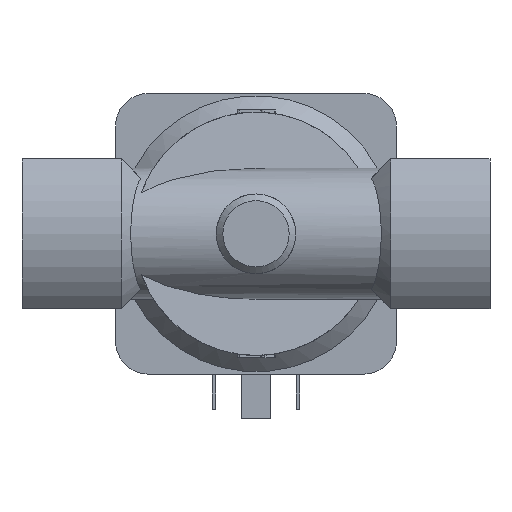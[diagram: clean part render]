
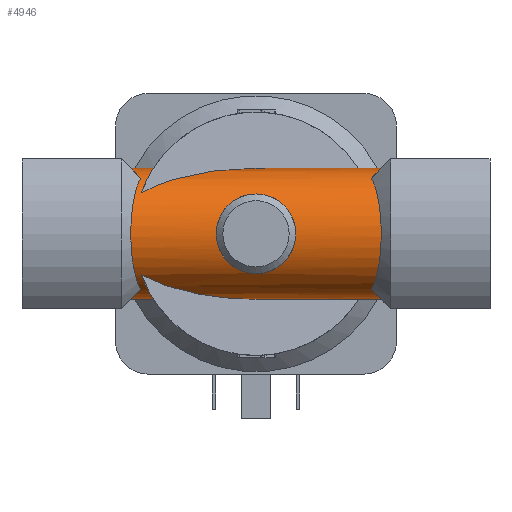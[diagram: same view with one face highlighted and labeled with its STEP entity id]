
A CAD part, front view. The second image highlights one B-rep face of the part: STEP entity #4946.
In plain terms, the highlighted cylindrical face has radius 14 mm (diameter 28 mm), a partial arc.
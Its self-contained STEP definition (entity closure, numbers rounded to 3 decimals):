
#464=LINE('',#8011,#898);
#465=LINE('',#8023,#899);
#466=LINE('',#8039,#900);
#467=LINE('',#8050,#901);
#898=VECTOR('',#6488,1000.);
#899=VECTOR('',#6491,1000.);
#900=VECTOR('',#6496,1000.);
#901=VECTOR('',#6499,1000.);
#1332=B_SPLINE_CURVE_WITH_KNOTS('',3,(#7999,#8000,#8001,#8002,#8003,#8004,
#8005,#8006,#8007),.UNSPECIFIED.,.F.,.F.,(4,1,1,1,1,1,4),(0.,
0.004,0.008,0.015,0.022,
0.026,0.029),.UNSPECIFIED.);
#1333=B_SPLINE_CURVE_WITH_KNOTS('',3,(#8013,#8014,#8015,#8016,#8017,#8018,
#8019),.UNSPECIFIED.,.F.,.F.,(4,1,1,1,4),(0.,0.003,
0.006,0.01,0.013),
 .UNSPECIFIED.);
#1334=B_SPLINE_CURVE_WITH_KNOTS('',3,(#8027,#8028,#8029,#8030,#8031,#8032,
#8033,#8034,#8035),.UNSPECIFIED.,.F.,.F.,(4,1,1,1,1,1,4),(0.,
0.004,0.008,0.015,0.022,
0.026,0.029),.UNSPECIFIED.);
#1335=B_SPLINE_CURVE_WITH_KNOTS('',3,(#8043,#8044,#8045,#8046,#8047,#8048),
 .UNSPECIFIED.,.F.,.F.,(4,1,1,4),(0.001,0.008,
0.011,0.014),.UNSPECIFIED.);
#1336=B_SPLINE_CURVE_WITH_KNOTS('',3,(#8051,#8052,#8053,#8054,#8055,#8056,
#8057,#8058,#8059,#8060,#8061,#8062,#8063,#8064,#8065,#8066,#8067,#8068,
#8069,#8070),.UNSPECIFIED.,.T.,.F.,(1,1,1,1,1,1,1,1,1,1,1,1,1,1,1,1,1,1,
1,1,1,1,1,1),(-0.007,-0.003,-0.002,
0.,0.003,0.007,0.01,0.014,
0.017,0.02,0.024,0.027,
0.031,0.034,0.037,0.041,
0.044,0.048,0.051,0.053,
0.054,0.058,0.061,0.065),
 .UNSPECIFIED.);
#1393=ORIENTED_EDGE('',*,*,#2833,.F.);
#1394=ORIENTED_EDGE('',*,*,#2834,.F.);
#1395=ORIENTED_EDGE('',*,*,#2835,.F.);
#1396=ORIENTED_EDGE('',*,*,#2836,.F.);
#1397=ORIENTED_EDGE('',*,*,#2837,.T.);
#1398=ORIENTED_EDGE('',*,*,#2838,.F.);
#1399=ORIENTED_EDGE('',*,*,#2839,.F.);
#1400=ORIENTED_EDGE('',*,*,#2840,.T.);
#1401=ORIENTED_EDGE('',*,*,#2841,.T.);
#1402=ORIENTED_EDGE('',*,*,#2842,.T.);
#1403=ORIENTED_EDGE('',*,*,#2843,.F.);
#1404=ORIENTED_EDGE('',*,*,#2844,.F.);
#1405=ORIENTED_EDGE('',*,*,#2845,.T.);
#1406=ORIENTED_EDGE('',*,*,#2846,.F.);
#1407=ORIENTED_EDGE('',*,*,#2847,.F.);
#2833=EDGE_CURVE('',#3553,#3554,#4049,.F.);
#2834=EDGE_CURVE('',#3555,#3553,#1332,.T.);
#2835=EDGE_CURVE('',#3556,#3555,#4050,.F.);
#2836=EDGE_CURVE('',#3557,#3556,#464,.T.);
#2837=EDGE_CURVE('',#3557,#3558,#1333,.T.);
#2838=EDGE_CURVE('',#3559,#3558,#4051,.F.);
#2839=EDGE_CURVE('',#3560,#3559,#465,.T.);
#2840=EDGE_CURVE('',#3560,#3561,#4052,.T.);
#2841=EDGE_CURVE('',#3561,#3562,#1334,.T.);
#2842=EDGE_CURVE('',#3562,#3563,#4053,.T.);
#2843=EDGE_CURVE('',#3564,#3563,#466,.T.);
#2844=EDGE_CURVE('',#3565,#3564,#4054,.F.);
#2845=EDGE_CURVE('',#3565,#3566,#1335,.T.);
#2846=EDGE_CURVE('',#3554,#3566,#467,.T.);
#2847=EDGE_CURVE('',#3567,#3567,#1336,.T.);
#3553=VERTEX_POINT('',#7997);
#3554=VERTEX_POINT('',#7998);
#3555=VERTEX_POINT('',#8008);
#3556=VERTEX_POINT('',#8010);
#3557=VERTEX_POINT('',#8012);
#3558=VERTEX_POINT('',#8020);
#3559=VERTEX_POINT('',#8022);
#3560=VERTEX_POINT('',#8024);
#3561=VERTEX_POINT('',#8026);
#3562=VERTEX_POINT('',#8036);
#3563=VERTEX_POINT('',#8038);
#3564=VERTEX_POINT('',#8040);
#3565=VERTEX_POINT('',#8042);
#3566=VERTEX_POINT('',#8049);
#3567=VERTEX_POINT('',#8071);
#4049=ELLIPSE('',#5942,19.799,14.);
#4050=ELLIPSE('',#5943,19.799,14.);
#4051=ELLIPSE('',#5944,34.42,14.);
#4052=ELLIPSE('',#5945,19.799,14.);
#4053=ELLIPSE('',#5946,19.799,14.);
#4054=ELLIPSE('',#5947,34.42,14.);
#4073=EDGE_LOOP('',(#1393,#1394,#1395,#1396,#1397,#1398,#1399,#1400,#1401,
#1402,#1403,#1404,#1405,#1406));
#4074=EDGE_LOOP('',(#1407));
#4467=FACE_BOUND('',#4073,.T.);
#4468=FACE_BOUND('',#4074,.T.);
#4861=CYLINDRICAL_SURFACE('',#5941,14.);
#4946=ADVANCED_FACE('',(#4467,#4468),#4861,.T.);
#5941=AXIS2_PLACEMENT_3D('',#7995,#6482,#6483);
#5942=AXIS2_PLACEMENT_3D('',#7996,#6484,#6485);
#5943=AXIS2_PLACEMENT_3D('',#8009,#6486,#6487);
#5944=AXIS2_PLACEMENT_3D('',#8021,#6489,#6490);
#5945=AXIS2_PLACEMENT_3D('',#8025,#6492,#6493);
#5946=AXIS2_PLACEMENT_3D('',#8037,#6494,#6495);
#5947=AXIS2_PLACEMENT_3D('',#8041,#6497,#6498);
#6482=DIRECTION('',(-1.,0.,0.));
#6483=DIRECTION('',(0.,0.,1.));
#6484=DIRECTION('',(0.707,0.,0.707));
#6485=DIRECTION('',(-0.707,0.,0.707));
#6486=DIRECTION('',(0.707,0.,-0.707));
#6487=DIRECTION('',(-0.707,0.,-0.707));
#6488=DIRECTION('',(-1.,0.,0.));
#6489=DIRECTION('',(0.407,-0.914,0.));
#6490=DIRECTION('',(-0.914,-0.407,0.));
#6491=DIRECTION('',(-1.,0.,0.));
#6492=DIRECTION('',(-0.707,0.,-0.707));
#6493=DIRECTION('',(-0.707,0.,0.707));
#6494=DIRECTION('',(-0.707,0.,0.707));
#6495=DIRECTION('',(-0.707,0.,-0.707));
#6496=DIRECTION('',(1.,0.,0.));
#6497=DIRECTION('',(0.407,-0.914,0.));
#6498=DIRECTION('',(-0.914,-0.407,0.));
#6499=DIRECTION('',(1.,0.,0.));
#7995=CARTESIAN_POINT('',(30.,0.,0.));
#7996=CARTESIAN_POINT('',(-12.75,0.,0.));
#7997=CARTESIAN_POINT('',(-24.652,-7.372,11.902));
#7998=CARTESIAN_POINT('',(-26.75,0.,14.));
#7999=CARTESIAN_POINT('',(-24.652,-7.372,-11.902));
#8000=CARTESIAN_POINT('',(-24.982,-8.359,-11.291));
#8001=CARTESIAN_POINT('',(-25.57,-10.165,-9.838));
#8002=CARTESIAN_POINT('',(-26.466,-13.041,-6.012));
#8003=CARTESIAN_POINT('',(-26.938,-14.636,-0.018));
#8004=CARTESIAN_POINT('',(-26.47,-13.052,5.986));
#8005=CARTESIAN_POINT('',(-25.577,-10.187,9.817));
#8006=CARTESIAN_POINT('',(-24.984,-8.364,11.288));
#8007=CARTESIAN_POINT('',(-24.652,-7.372,11.902));
#8008=CARTESIAN_POINT('',(-24.652,-7.372,-11.902));
#8009=CARTESIAN_POINT('',(-12.75,0.,0.));
#8010=CARTESIAN_POINT('',(-26.75,0.,-14.));
#8011=CARTESIAN_POINT('',(30.,0.,-14.));
#8012=CARTESIAN_POINT('',(-21.909,0.,-14.));
#8013=CARTESIAN_POINT('',(-21.909,0.,-14.));
#8014=CARTESIAN_POINT('',(-21.909,-1.077,-14.));
#8015=CARTESIAN_POINT('',(-22.068,-3.182,-13.756));
#8016=CARTESIAN_POINT('',(-22.708,-6.173,-12.696));
#8017=CARTESIAN_POINT('',(-23.575,-8.799,-11.032));
#8018=CARTESIAN_POINT('',(-24.18,-10.247,-9.595));
#8019=CARTESIAN_POINT('',(-24.468,-10.894,-8.793));
#8020=CARTESIAN_POINT('',(-24.468,-10.894,-8.793));
#8021=CARTESIAN_POINT('',(0.,0.,0.));
#8022=CARTESIAN_POINT('',(0.,0.,-14.));
#8023=CARTESIAN_POINT('',(30.,0.,-14.));
#8024=CARTESIAN_POINT('',(26.75,0.,-14.));
#8025=CARTESIAN_POINT('',(12.75,0.,0.));
#8026=CARTESIAN_POINT('',(24.652,-7.372,-11.902));
#8027=CARTESIAN_POINT('',(24.652,-7.372,-11.902));
#8028=CARTESIAN_POINT('',(24.982,-8.359,-11.291));
#8029=CARTESIAN_POINT('',(25.57,-10.165,-9.838));
#8030=CARTESIAN_POINT('',(26.466,-13.041,-6.012));
#8031=CARTESIAN_POINT('',(26.938,-14.636,-0.018));
#8032=CARTESIAN_POINT('',(26.47,-13.052,5.986));
#8033=CARTESIAN_POINT('',(25.577,-10.187,9.817));
#8034=CARTESIAN_POINT('',(24.984,-8.364,11.288));
#8035=CARTESIAN_POINT('',(24.652,-7.372,11.902));
#8036=CARTESIAN_POINT('',(24.652,-7.372,11.902));
#8037=CARTESIAN_POINT('',(12.75,0.,0.));
#8038=CARTESIAN_POINT('',(26.75,0.,14.));
#8039=CARTESIAN_POINT('',(-30.,0.,14.));
#8040=CARTESIAN_POINT('',(0.,0.,14.));
#8041=CARTESIAN_POINT('',(0.,0.,0.));
#8042=CARTESIAN_POINT('',(-24.468,-10.894,8.793));
#8043=CARTESIAN_POINT('',(-24.468,-10.894,8.793));
#8044=CARTESIAN_POINT('',(-23.895,-9.607,10.387));
#8045=CARTESIAN_POINT('',(-22.925,-7.177,12.336));
#8046=CARTESIAN_POINT('',(-22.069,-3.192,13.754));
#8047=CARTESIAN_POINT('',(-21.909,-1.079,14.));
#8048=CARTESIAN_POINT('',(-21.909,0.,14.));
#8049=CARTESIAN_POINT('',(-21.909,0.,14.));
#8050=CARTESIAN_POINT('',(-30.,0.,14.));
#8051=CARTESIAN_POINT('',(-1.727,-11.216,-8.382));
#8052=CARTESIAN_POINT('',(0.581,-11.031,-8.619));
#8053=CARTESIAN_POINT('',(3.406,-11.506,-8.024));
#8054=CARTESIAN_POINT('',(6.135,-12.653,-6.175));
#8055=CARTESIAN_POINT('',(8.012,-13.697,-3.443));
#8056=CARTESIAN_POINT('',(8.738,-14.148,-0.039));
#8057=CARTESIAN_POINT('',(8.036,-13.711,3.399));
#8058=CARTESIAN_POINT('',(6.155,-12.664,6.153));
#8059=CARTESIAN_POINT('',(3.451,-11.52,8.006));
#8060=CARTESIAN_POINT('',(0.035,-10.932,8.74));
#8061=CARTESIAN_POINT('',(-3.389,-11.499,8.035));
#8062=CARTESIAN_POINT('',(-6.124,-12.648,6.186));
#8063=CARTESIAN_POINT('',(-8.011,-13.696,3.45));
#8064=CARTESIAN_POINT('',(-8.739,-14.149,0.033));
#8065=CARTESIAN_POINT('',(-8.034,-13.71,-3.403));
#8066=CARTESIAN_POINT('',(-6.15,-12.659,-6.162));
#8067=CARTESIAN_POINT('',(-3.881,-11.708,-7.704));
#8068=CARTESIAN_POINT('',(-1.727,-11.216,-8.382));
#8069=CARTESIAN_POINT('',(0.581,-11.031,-8.619));
#8070=CARTESIAN_POINT('',(3.406,-11.506,-8.024));
#8071=CARTESIAN_POINT('',(0.,-11.124,-8.5));
